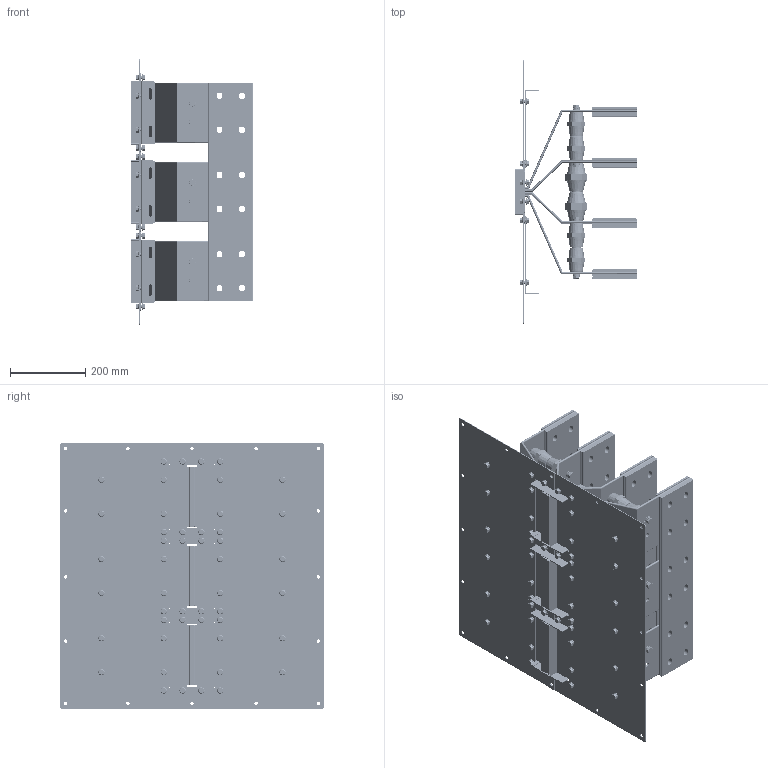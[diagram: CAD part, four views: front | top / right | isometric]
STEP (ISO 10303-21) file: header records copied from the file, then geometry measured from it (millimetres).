
FILE_DESCRIPTION(('CATIA V5 STEP','CAx-IF Rec.Pracs.--- Model Styling and Organization---1.5--- 2016-08-15','CAx-IF Rec.Pracs.---Supplemental Geometry---1.0---2011-11-01','CAx-IF Rec.Pracs.--- Composite Materials ---1.1---2010-07-15'),'2;1');
FILE_NAME('K:\COSCN 2011\32372311_RiduzioneSezioniBarre\03_Studio\__Modelli semplificati\XCP_UB semplificati per studi\XCP-S_UB_4C_Pe_CRT_Assieme\Cu\XCP-S_UB_4C_Pe_T_Assieme - 6300A Cu_CRT\XCP-S_UB_4C_Pe_T_Assieme - 6300A Cu_CRT.stp','2025-05-12T13:25:11+00:00',('Utente Bticino'),('Bticino S.p.A.'),'CATIA Version 5-6 Release 2020 SP5','CATIA V5 STEP AP214 v2','none');
FILE_SCHEMA(('AUTOMOTIVE_DESIGN { 1 0 10303 214 1 1 1 1 }'));
Products named in the file (40): XCP-S_UB_4C_Pe_T_Assieme - 6300A Cu_CRT; XCP-S_UB_4C_Pe_T_Lamiere_6300A Cu_CRT; XCP-S_UB_4C_Pe_T_PaccoBarre_6300A Cu_CRT; XCP-S_UB_4C_Pe_T_PaccoBarre_6300A Cu_CRT_1; XCP-S_UB_4C_Pe_T_PaccoBarre_6300A Cu_CRT_2; XCP-S_UB_4C_Pe_T - 6300A Cu_Bandelle parallelo_CRT; 130006; 130184; 00750033 - RONDELLA PIANA 4.8 D.12 UNI 6592 ZB; Ass_M10x25.1; 00740025 M10x25 UNI5739; Rondella spac M10 UNI 1751; 00750005; 130006_1; 130184_1; 00750033 - RONDELLA PIANA 4.8 D.12 UNI 6592 ZB_1; 130006_2; 00750033 - RONDELLA PIANA 4.8 D.12 UNI 6592 ZB_2; 130006_3; 130006_4; 130006_5; 130006_6; 130006_7; 00750033 - RONDELLA PIANA 4.8 D.12 UNI 6592 ZB_3; 00750033 - RONDELLA PIANA 4.8 D.12 UNI 6592 ZB_4; 00750033 - RONDELLA PIANA 4.8 D.12 UNI 6592 ZB_5; 00750033 - RONDELLA PIANA 4.8 D.12 UNI 6592 ZB_6; 130006_8; 130006_9; 130006_10; 130006_11; 130184_2; 00750033 - RONDELLA PIANA 4.8 D.12 UNI 6592 ZB_7; 130184_3; 130184_4; 00750033 - RONDELLA PIANA 4.8 D.12 UNI 6592 ZB_8; 130184_5; Ass Vite+dado M8; Steel hex flanged SCREW M12x16; Steel hex flanged NUT M8
Assembly tree (103 placements, depth 3):
  XCP-S_UB_4C_Pe_T_Assieme - 6300A Cu_CRT
    XCP-S_UB_4C_Pe_T_Lamiere_6300A Cu_CRT
    XCP-S_UB_4C_Pe_T_PaccoBarre_6300A Cu_CRT
    XCP-S_UB_4C_Pe_T_PaccoBarre_6300A Cu_CRT_1
    XCP-S_UB_4C_Pe_T_PaccoBarre_6300A Cu_CRT_2
    XCP-S_UB_4C_Pe_T - 6300A Cu_Bandelle parallelo_CRT
    130006
    130184
    00750033 - RONDELLA PIANA 4.8 D.12 UNI 6592 ZB
    Ass_M10x25.1  x18
      00740025 M10x25 UNI5739
      Rondella spac M10 UNI 1751
      00750005
    130006_1
    130184_1
    00750033 - RONDELLA PIANA 4.8 D.12 UNI 6592 ZB_1
    130006_2
    00750033 - RONDELLA PIANA 4.8 D.12 UNI 6592 ZB_2
    130006_3
    130006_4
    130006_5
    130006_6
    130006_7
    00750033 - RONDELLA PIANA 4.8 D.12 UNI 6592 ZB_3
    00750033 - RONDELLA PIANA 4.8 D.12 UNI 6592 ZB_4
    00750033 - RONDELLA PIANA 4.8 D.12 UNI 6592 ZB_5
    00750033 - RONDELLA PIANA 4.8 D.12 UNI 6592 ZB_6
    130006_8
    130006_9
    130006_10
    130006_11
    130184_2
    00750033 - RONDELLA PIANA 4.8 D.12 UNI 6592 ZB_7
    130184_3
    130184_4
    00750033 - RONDELLA PIANA 4.8 D.12 UNI 6592 ZB_8
    130184_5
    Ass Vite+dado M8  x48
      Steel hex flanged SCREW M12x16
      Steel hex flanged NUT M8
Bounding box: 325 x 700 x 705 mm (x, y, z)
Volume: 12795318.2 mm3; surface area: 5073162.6 mm2
Topology: 221 solids, 221 shells, 5332 faces, 12984 edges, 8208 vertices
Faces by surface type: plane 2396, cylinder 1616, cone 600, bspline 528, torus 192
Entity records: 74622 total; most frequent: CARTESIAN_POINT 14488, ORIENTED_EDGE 13208, DIRECTION 9770, EDGE_CURVE 6604, VERTEX_POINT 4256, AXIS2_PLACEMENT_3D 4068, VECTOR 4056, LINE 4056
